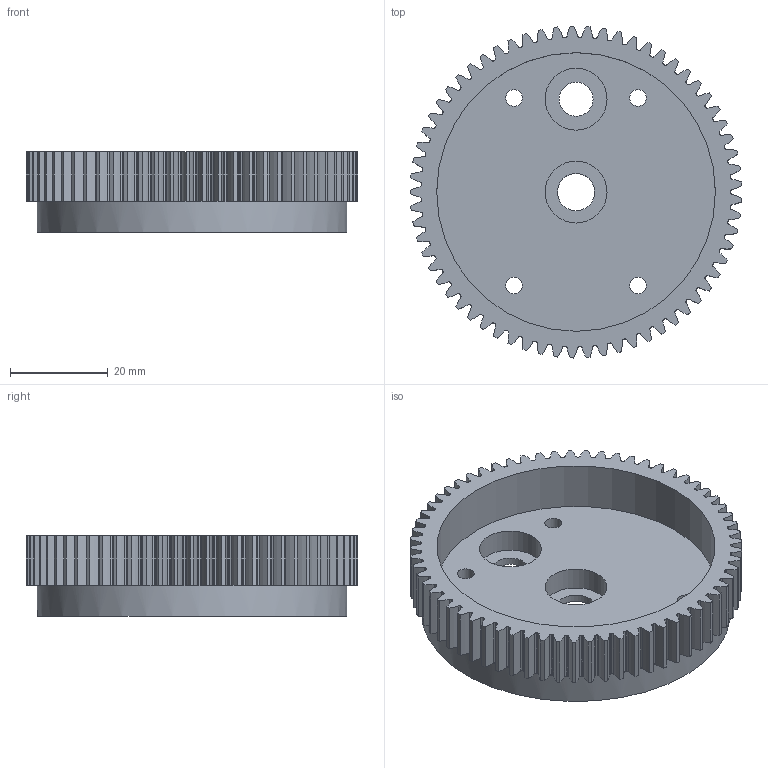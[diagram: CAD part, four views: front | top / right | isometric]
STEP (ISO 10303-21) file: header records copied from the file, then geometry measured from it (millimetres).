
FILE_DESCRIPTION(/* description */ ('STEP AP242 Edition 2','CAx-IF Rec.Pracs.---Representation and Presentation of Product Manufacturing Information (PMI)---4.0---2014-10-13','CAx-IF Rec.Pracs.---3D Tessellated Geometry---0.4---2014-09-14','2;1','CAx-IF Rec.Pracs.---User Defined Attributes---1.5---2016-08-15'),/* implementation_level */ '2;1');
FILE_NAME(/* name */ 'Main - 65t BIG GEAR',/* time_stamp */ '2026-09-13T15:49:56Z',/* author */ (''),/* organization */ (''),/* preprocessor_version */ 'ST-DEVELOPER v20',/* originating_system */ 'ONSHAPE BY PTC INC, 1.220',/* authorisation */ ' ');
FILE_SCHEMA (('AP242_MANAGED_MODEL_BASED_3D_ENGINEERING_MIM_LF { 1 0 10303 442 3 1 4 }'));
Length unit declared in the file: metre
Products named in the file (1): 65t BIG GEAR
Bounding box: 68.05 x 68.07 x 16.51 mm (x, y, z)
Volume: 27132.3 mm3; surface area: 14546.4 mm2
Topology: 1 solids, 1 shells, 405 faces, 1202 edges, 802 vertices
Faces by surface type: cylinder 205, bspline 130, plane 70
Full cylindrical faces by diameter (mm): 3.429 x4, 6.985 x1, 7.62 x1, 12.7 x2, 57.15 x1, 63.5 x1
Entity records: 17680 total; most frequent: CARTESIAN_POINT 7204, ORIENTED_EDGE 2378, DIRECTION 2020, EDGE_CURVE 1189, AXIS2_PLACEMENT_3D 815, VERTEX_POINT 799, CIRCLE 539, EDGE_LOOP 430
